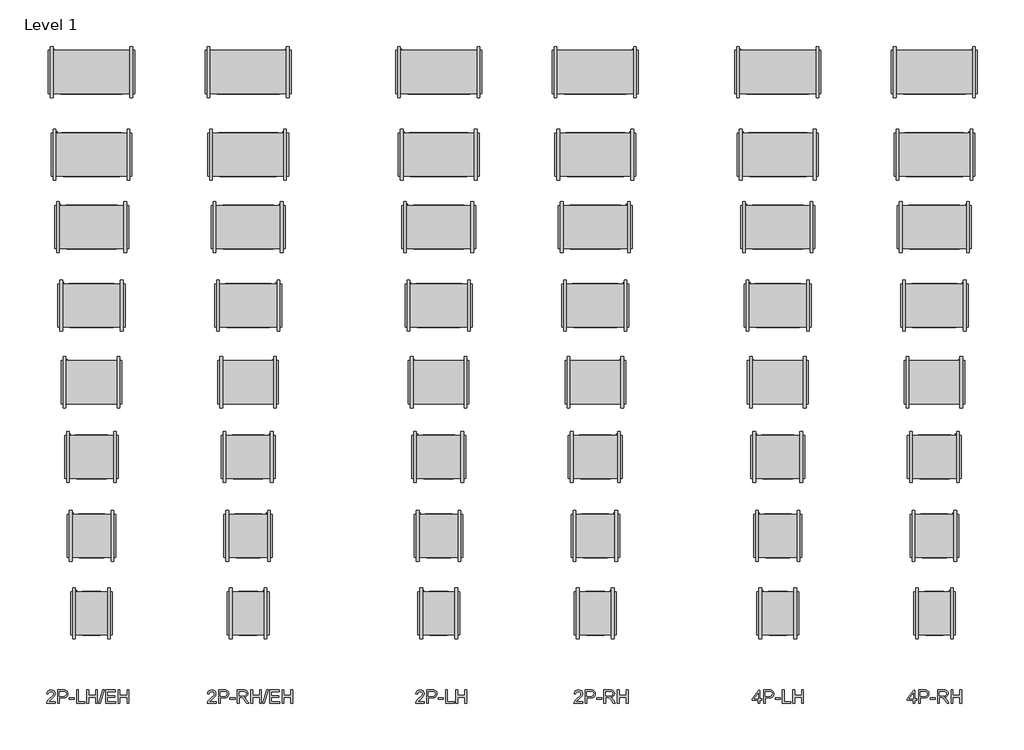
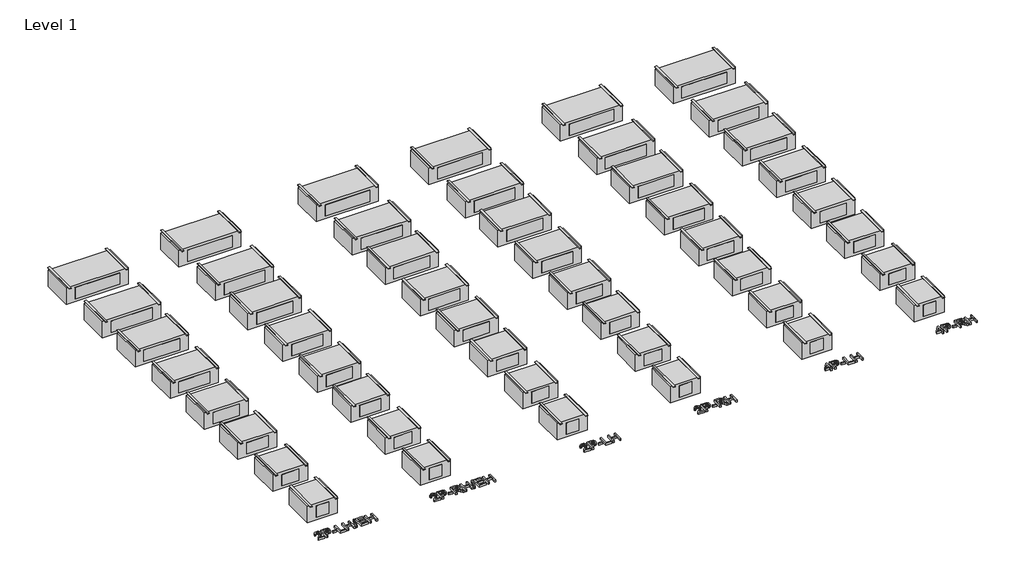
# One storey: 54 proxies.
"""IFC4 building model written with IfcOpenShell, lengths in millimetres."""

from ifc_helpers import new_model, si_unit, origin, origin_with_axes, place, context, project, spatial, polyline, outline, extrude, transform, mapped, element, save
from components import mechanical_equipment_26f8894d, mechanical_equipment_87600767, mechanical_equipment_b159b2cd, mechanical_equipment_a8f203a1, mechanical_equipment_70e01742, mechanical_equipment_dbfdf2e5, mechanical_equipment_0f606a30, mechanical_equipment_f485df29, mechanical_equipment_0a2ce578, mechanical_equipment_faba4bf7, mechanical_equipment_e893a141, mechanical_equipment_a9ee03a7, mechanical_equipment_9f4dc20a, mechanical_equipment_ffdbdcb3, mechanical_equipment_647ce925, mechanical_equipment_97658934, mechanical_equipment_33559a50, mechanical_equipment_e15ea110, mechanical_equipment_82f79ed9, mechanical_equipment_b189dda4, mechanical_equipment_b7b84645, mechanical_equipment_fb833bd3, mechanical_equipment_b19d2d59, mechanical_equipment_2fbf0505, mechanical_equipment_cd44f85f, mechanical_equipment_42f91bbd, mechanical_equipment_d08900a7, mechanical_equipment_3ababbc8, mechanical_equipment_00bbcb23, mechanical_equipment_579c9824, mechanical_equipment_f75bf29c, mechanical_equipment_cf69444b

model = new_model("IFC4")

# Units and contexts
model_context = context("Model", 3, world=origin())
ifc_project = project(units=[si_unit("LENGTHUNIT", "METRE", prefix="MILLI")], contexts=[model_context])

# Site, building, storey
site = spatial("IfcSite", under=ifc_project)
building = spatial("IfcBuilding", under=site)
storey = spatial("IfcBuildingStorey", under=building, Name="Level 1", Elevation=0.0)

# Proxies
placement = place(None, origin())
mechanical_equipment_shape = mechanical_equipment_26f8894d(model_context)
element("IfcBuildingElementProxy", 1, Name="Exposed_High_Capacity_Horizontal_Cabinet_Fan_Coil_Unit_-_42DFA_-_CARRIER_-_2-Pipe_Cool-EHeat_RH_2022 : Size 06 - 277v/60Hz/1Ph - 6 Row 4.0kW", ObjectType="Exposed_High_Capacity_Horizontal_Cabinet_Fan_Coil_Unit_-_42DFA_-_CARRIER_-_2-Pipe_Cool-EHeat_RH_2022 : Size 06 - 277v/60Hz/1Ph - 6 Row 4.0kW", at=placement, inside=storey, context=model_context, shape_type="MappedRepresentation", body=[
    mapped(mechanical_equipment_shape, transform((-31973.3058544, -7562.5509778, 0.0), x_axis=(1.0, 0.0, 0.0), y_axis=(0.0, 1.0, 0.0), z_axis=(0.0, 0.0, 1.0))),
])
mechanical_equipment_2_shape = mechanical_equipment_87600767(model_context)
element("IfcBuildingElementProxy", 2, Name="Exposed_High_Capacity_Horizontal_Cabinet_Fan_Coil_Unit_-_42DFA_-_CARRIER_-_2-Pipe_Cool-EHeat_RH_2022 : Size 08 - 277v/60Hz/1Ph - 6 Row 6.0kW", ObjectType="Exposed_High_Capacity_Horizontal_Cabinet_Fan_Coil_Unit_-_42DFA_-_CARRIER_-_2-Pipe_Cool-EHeat_RH_2022 : Size 08 - 277v/60Hz/1Ph - 6 Row 6.0kW", at=placement, inside=storey, context=model_context, shape_type="MappedRepresentation", body=[
    mapped(mechanical_equipment_2_shape, transform((-31973.3058544, -6097.8142671, 0.0), x_axis=(1.0, 0.0, 0.0), y_axis=(0.0, 1.0, 0.0), z_axis=(0.0, 0.0, 1.0))),
])
mechanical_equipment_3_shape = mechanical_equipment_b159b2cd(model_context)
element("IfcBuildingElementProxy", 3, Name="Exposed_High_Capacity_Horizontal_Cabinet_Fan_Coil_Unit_-_42DFA_-_CARRIER_-_2-Pipe_Cool-EHeat_RH_2022 : Size 10 - 277v/60Hz/1Ph - 6 Row 7.0kW", ObjectType="Exposed_High_Capacity_Horizontal_Cabinet_Fan_Coil_Unit_-_42DFA_-_CARRIER_-_2-Pipe_Cool-EHeat_RH_2022 : Size 10 - 277v/60Hz/1Ph - 6 Row 7.0kW", at=placement, inside=storey, context=model_context, shape_type="MappedRepresentation", body=[
    mapped(mechanical_equipment_3_shape, transform((-31973.3058544, -4605.9528026, 0.0), x_axis=(1.0, 0.0, 0.0), y_axis=(0.0, 1.0, 0.0), z_axis=(0.0, 0.0, 1.0))),
])
mechanical_equipment_4_shape = mechanical_equipment_a8f203a1(model_context)
element("IfcBuildingElementProxy", 4, Name="Exposed_High_Capacity_Horizontal_Cabinet_Fan_Coil_Unit_-_42DFA_-_CARRIER_-_2-Pipe_Cool-EHeat_RH_2022 : Size 12 - 277v/60Hz/1Ph - 6 Row 9.0kW", ObjectType="Exposed_High_Capacity_Horizontal_Cabinet_Fan_Coil_Unit_-_42DFA_-_CARRIER_-_2-Pipe_Cool-EHeat_RH_2022 : Size 12 - 277v/60Hz/1Ph - 6 Row 9.0kW", at=placement, inside=storey, context=model_context, shape_type="MappedRepresentation", body=[
    mapped(mechanical_equipment_4_shape, transform((-31973.3058544, -3195.4655997, 0.0), x_axis=(1.0, 0.0, 0.0), y_axis=(0.0, 1.0, 0.0), z_axis=(0.0, 0.0, 1.0))),
])
mechanical_equipment_5_shape = mechanical_equipment_70e01742(model_context)
element("IfcBuildingElementProxy", 5, Name="Exposed_High_Capacity_Horizontal_Cabinet_Fan_Coil_Unit_-_42DFA_-_CARRIER_-_2-Pipe_Cool-EHeat_RH_2022 : Size 14 - 277v/60Hz/1Ph - 6 Row 10.0kW", ObjectType="Exposed_High_Capacity_Horizontal_Cabinet_Fan_Coil_Unit_-_42DFA_-_CARRIER_-_2-Pipe_Cool-EHeat_RH_2022 : Size 14 - 277v/60Hz/1Ph - 6 Row 10.0kW", at=placement, inside=storey, context=model_context, shape_type="MappedRepresentation", body=[
    mapped(mechanical_equipment_5_shape, transform((-31973.3058544, -1744.291266, 0.0), x_axis=(1.0, 0.0, 0.0), y_axis=(0.0, 1.0, 0.0), z_axis=(0.0, 0.0, 1.0))),
])
mechanical_equipment_6_shape = mechanical_equipment_dbfdf2e5(model_context)
element("IfcBuildingElementProxy", 6, Name="Exposed_High_Capacity_Horizontal_Cabinet_Fan_Coil_Unit_-_42DFA_-_CARRIER_-_2-Pipe_Cool-EHeat_RH_2022 : Size 16 - 277v/60Hz/1Ph - 6 Row 12.0kW", ObjectType="Exposed_High_Capacity_Horizontal_Cabinet_Fan_Coil_Unit_-_42DFA_-_CARRIER_-_2-Pipe_Cool-EHeat_RH_2022 : Size 16 - 277v/60Hz/1Ph - 6 Row 12.0kW", at=placement, inside=storey, context=model_context, shape_type="MappedRepresentation", body=[
    mapped(mechanical_equipment_6_shape, transform((-31973.3058544, -265.9921784, 0.0), x_axis=(1.0, 0.0, 0.0), y_axis=(0.0, 1.0, 0.0), z_axis=(0.0, 0.0, 1.0))),
])
mechanical_equipment_7_shape = mechanical_equipment_0f606a30(model_context)
element("IfcBuildingElementProxy", 7, Name="Exposed_High_Capacity_Horizontal_Cabinet_Fan_Coil_Unit_-_42DFA_-_CARRIER_-_2-Pipe_Cool-EHeat_RH_2022 : Size 18 - 277v/60Hz/1Ph - 6 Row 12.0kW", ObjectType="Exposed_High_Capacity_Horizontal_Cabinet_Fan_Coil_Unit_-_42DFA_-_CARRIER_-_2-Pipe_Cool-EHeat_RH_2022 : Size 18 - 277v/60Hz/1Ph - 6 Row 12.0kW", at=placement, inside=storey, context=model_context, shape_type="MappedRepresentation", body=[
    mapped(mechanical_equipment_7_shape, transform((-31973.3058544, 1103.8078936, 0.0), x_axis=(1.0, 0.0, 0.0), y_axis=(0.0, 1.0, 0.0), z_axis=(0.0, 0.0, 1.0))),
])
mechanical_equipment_8_shape = mechanical_equipment_f485df29(model_context)
element("IfcBuildingElementProxy", 8, Name="Exposed_High_Capacity_Horizontal_Cabinet_Fan_Coil_Unit_-_42DFA_-_CARRIER_-_2-Pipe_Cool-EHeat_RH_2022 : Size 20 - 277v/60Hz/1Ph - 6 Row 14.0kW", ObjectType="Exposed_High_Capacity_Horizontal_Cabinet_Fan_Coil_Unit_-_42DFA_-_CARRIER_-_2-Pipe_Cool-EHeat_RH_2022 : Size 20 - 277v/60Hz/1Ph - 6 Row 14.0kW", at=placement, inside=storey, context=model_context, shape_type="MappedRepresentation", body=[
    mapped(mechanical_equipment_8_shape, transform((-31973.3058544, 2663.4812429, 0.0), x_axis=(1.0, 0.0, 0.0), y_axis=(0.0, 1.0, 0.0), z_axis=(0.0, 0.0, 1.0))),
])
mechanical_equipment_9_shape = mechanical_equipment_0a2ce578(model_context)
element("IfcBuildingElementProxy", 9, Name="Exposed_High_Capacity_Horizontal_Cabinet_Fan_Coil_Unit_-_42DFA_-_CARRIER_-_4-Pipe_RH_2022 : Size 06 - 277v/60Hz/1Ph - 6/2 Coil", ObjectType="Exposed_High_Capacity_Horizontal_Cabinet_Fan_Coil_Unit_-_42DFA_-_CARRIER_-_4-Pipe_RH_2022 : Size 06 - 277v/60Hz/1Ph - 6/2 Coil", at=placement, inside=storey, context=model_context, shape_type="MappedRepresentation", body=[
    mapped(mechanical_equipment_9_shape, transform((-19019.3058544, -7562.5509778, 0.0), x_axis=(1.0, 0.0, 0.0), y_axis=(0.0, 1.0, 0.0), z_axis=(0.0, 0.0, 1.0))),
])
mechanical_equipment_10_shape = mechanical_equipment_faba4bf7(model_context)
element("IfcBuildingElementProxy", 10, Name="Exposed_High_Capacity_Horizontal_Cabinet_Fan_Coil_Unit_-_42DFA_-_CARRIER_-_4-Pipe_RH_2022 : Size 08 - 277v/60Hz/1Ph - 6/2 Coil", ObjectType="Exposed_High_Capacity_Horizontal_Cabinet_Fan_Coil_Unit_-_42DFA_-_CARRIER_-_4-Pipe_RH_2022 : Size 08 - 277v/60Hz/1Ph - 6/2 Coil", at=placement, inside=storey, context=model_context, shape_type="MappedRepresentation", body=[
    mapped(mechanical_equipment_10_shape, transform((-19019.3058544, -6097.8142671, 0.0), x_axis=(1.0, 0.0, 0.0), y_axis=(0.0, 1.0, 0.0), z_axis=(0.0, 0.0, 1.0))),
])
mechanical_equipment_11_shape = mechanical_equipment_e893a141(model_context)
element("IfcBuildingElementProxy", 11, Name="Exposed_High_Capacity_Horizontal_Cabinet_Fan_Coil_Unit_-_42DFA_-_CARRIER_-_4-Pipe_RH_2022 : Size 10 - 277v/60Hz/1Ph - 6/2 Coil", ObjectType="Exposed_High_Capacity_Horizontal_Cabinet_Fan_Coil_Unit_-_42DFA_-_CARRIER_-_4-Pipe_RH_2022 : Size 10 - 277v/60Hz/1Ph - 6/2 Coil", at=placement, inside=storey, context=model_context, shape_type="MappedRepresentation", body=[
    mapped(mechanical_equipment_11_shape, transform((-19019.3058544, -4605.9528026, 0.0), x_axis=(1.0, 0.0, 0.0), y_axis=(0.0, 1.0, 0.0), z_axis=(0.0, 0.0, 1.0))),
])
mechanical_equipment_12_shape = mechanical_equipment_a9ee03a7(model_context)
element("IfcBuildingElementProxy", 12, Name="Exposed_High_Capacity_Horizontal_Cabinet_Fan_Coil_Unit_-_42DFA_-_CARRIER_-_4-Pipe_RH_2022 : Size 12 - 277v/60Hz/1Ph - 6/2 Coil", ObjectType="Exposed_High_Capacity_Horizontal_Cabinet_Fan_Coil_Unit_-_42DFA_-_CARRIER_-_4-Pipe_RH_2022 : Size 12 - 277v/60Hz/1Ph - 6/2 Coil", at=placement, inside=storey, context=model_context, shape_type="MappedRepresentation", body=[
    mapped(mechanical_equipment_12_shape, transform((-19019.3058544, -3195.4655997, 0.0), x_axis=(1.0, 0.0, 0.0), y_axis=(0.0, 1.0, 0.0), z_axis=(0.0, 0.0, 1.0))),
])
mechanical_equipment_13_shape = mechanical_equipment_9f4dc20a(model_context)
element("IfcBuildingElementProxy", 13, Name="Exposed_High_Capacity_Horizontal_Cabinet_Fan_Coil_Unit_-_42DFA_-_CARRIER_-_4-Pipe_RH_2022 : Size 14 - 277v/60Hz/1Ph - 6/2 Coil", ObjectType="Exposed_High_Capacity_Horizontal_Cabinet_Fan_Coil_Unit_-_42DFA_-_CARRIER_-_4-Pipe_RH_2022 : Size 14 - 277v/60Hz/1Ph - 6/2 Coil", at=placement, inside=storey, context=model_context, shape_type="MappedRepresentation", body=[
    mapped(mechanical_equipment_13_shape, transform((-19019.3058544, -1744.291266, 0.0), x_axis=(1.0, 0.0, 0.0), y_axis=(0.0, 1.0, 0.0), z_axis=(0.0, 0.0, 1.0))),
])
mechanical_equipment_14_shape = mechanical_equipment_ffdbdcb3(model_context)
element("IfcBuildingElementProxy", 14, Name="Exposed_High_Capacity_Horizontal_Cabinet_Fan_Coil_Unit_-_42DFA_-_CARRIER_-_4-Pipe_RH_2022 : Size 16 - 277v/60Hz/1Ph - 6/2 Coil", ObjectType="Exposed_High_Capacity_Horizontal_Cabinet_Fan_Coil_Unit_-_42DFA_-_CARRIER_-_4-Pipe_RH_2022 : Size 16 - 277v/60Hz/1Ph - 6/2 Coil", at=placement, inside=storey, context=model_context, shape_type="MappedRepresentation", body=[
    mapped(mechanical_equipment_14_shape, transform((-19019.3058544, -265.9921784, 0.0), x_axis=(1.0, 0.0, 0.0), y_axis=(0.0, 1.0, 0.0), z_axis=(0.0, 0.0, 1.0))),
])
mechanical_equipment_15_shape = mechanical_equipment_647ce925(model_context)
element("IfcBuildingElementProxy", 15, Name="Exposed_High_Capacity_Horizontal_Cabinet_Fan_Coil_Unit_-_42DFA_-_CARRIER_-_4-Pipe_RH_2022 : Size 18 - 277v/60Hz/1Ph - 6/2 Coil", ObjectType="Exposed_High_Capacity_Horizontal_Cabinet_Fan_Coil_Unit_-_42DFA_-_CARRIER_-_4-Pipe_RH_2022 : Size 18 - 277v/60Hz/1Ph - 6/2 Coil", at=placement, inside=storey, context=model_context, shape_type="MappedRepresentation", body=[
    mapped(mechanical_equipment_15_shape, transform((-19019.3058544, 1103.8078936, 0.0), x_axis=(1.0, 0.0, 0.0), y_axis=(0.0, 1.0, 0.0), z_axis=(0.0, 0.0, 1.0))),
])
mechanical_equipment_16_shape = mechanical_equipment_97658934(model_context)
element("IfcBuildingElementProxy", 16, Name="Exposed_High_Capacity_Horizontal_Cabinet_Fan_Coil_Unit_-_42DFA_-_CARRIER_-_4-Pipe_RH_2022 : Size 20 - 277v/60Hz/1Ph - 6/2 Coil", ObjectType="Exposed_High_Capacity_Horizontal_Cabinet_Fan_Coil_Unit_-_42DFA_-_CARRIER_-_4-Pipe_RH_2022 : Size 20 - 277v/60Hz/1Ph - 6/2 Coil", at=placement, inside=storey, context=model_context, shape_type="MappedRepresentation", body=[
    mapped(mechanical_equipment_16_shape, transform((-19019.3058544, 2663.4812429, 0.0), x_axis=(1.0, 0.0, 0.0), y_axis=(0.0, 1.0, 0.0), z_axis=(0.0, 0.0, 1.0))),
])
mechanical_equipment_17_shape = mechanical_equipment_33559a50(model_context)
element("IfcBuildingElementProxy", 17, Name="Exposed_High_Capacity_Horizontal_Cabinet_Fan_Coil_Unit_-_42DFA_-_CARRIER_-_4-Pipe_LH_2022 : Size 06 - 277v/60Hz/1Ph - 6/2 Coil", ObjectType="Exposed_High_Capacity_Horizontal_Cabinet_Fan_Coil_Unit_-_42DFA_-_CARRIER_-_4-Pipe_LH_2022 : Size 06 - 277v/60Hz/1Ph - 6/2 Coil", at=placement, inside=storey, context=model_context, shape_type="MappedRepresentation", body=[
    mapped(mechanical_equipment_17_shape, transform((-21975.9040296, -7562.5509778, 0.0), x_axis=(1.0, 0.0, 0.0), y_axis=(0.0, 1.0, 0.0), z_axis=(0.0, 0.0, 1.0))),
])
mechanical_equipment_18_shape = mechanical_equipment_e15ea110(model_context)
element("IfcBuildingElementProxy", 18, Name="Exposed_High_Capacity_Horizontal_Cabinet_Fan_Coil_Unit_-_42DFA_-_CARRIER_-_4-Pipe_LH_2022 : Size 08 - 277v/60Hz/1Ph - 6/2 Coil", ObjectType="Exposed_High_Capacity_Horizontal_Cabinet_Fan_Coil_Unit_-_42DFA_-_CARRIER_-_4-Pipe_LH_2022 : Size 08 - 277v/60Hz/1Ph - 6/2 Coil", at=placement, inside=storey, context=model_context, shape_type="MappedRepresentation", body=[
    mapped(mechanical_equipment_18_shape, transform((-21975.9040296, -6097.8142671, 0.0), x_axis=(1.0, 0.0, 0.0), y_axis=(0.0, 1.0, 0.0), z_axis=(0.0, 0.0, 1.0))),
])
mechanical_equipment_19_shape = mechanical_equipment_82f79ed9(model_context)
element("IfcBuildingElementProxy", 19, Name="Exposed_High_Capacity_Horizontal_Cabinet_Fan_Coil_Unit_-_42DFA_-_CARRIER_-_4-Pipe_LH_2022 : Size 10 - 277v/60Hz/1Ph - 6/2 Coil", ObjectType="Exposed_High_Capacity_Horizontal_Cabinet_Fan_Coil_Unit_-_42DFA_-_CARRIER_-_4-Pipe_LH_2022 : Size 10 - 277v/60Hz/1Ph - 6/2 Coil", at=placement, inside=storey, context=model_context, shape_type="MappedRepresentation", body=[
    mapped(mechanical_equipment_19_shape, transform((-21975.9040296, -4605.9528026, 0.0), x_axis=(1.0, 0.0, 0.0), y_axis=(0.0, 1.0, 0.0), z_axis=(0.0, 0.0, 1.0))),
])
mechanical_equipment_20_shape = mechanical_equipment_b189dda4(model_context)
element("IfcBuildingElementProxy", 20, Name="Exposed_High_Capacity_Horizontal_Cabinet_Fan_Coil_Unit_-_42DFA_-_CARRIER_-_4-Pipe_LH_2022 : Size 12 - 277v/60Hz/1Ph - 6/2 Coil", ObjectType="Exposed_High_Capacity_Horizontal_Cabinet_Fan_Coil_Unit_-_42DFA_-_CARRIER_-_4-Pipe_LH_2022 : Size 12 - 277v/60Hz/1Ph - 6/2 Coil", at=placement, inside=storey, context=model_context, shape_type="MappedRepresentation", body=[
    mapped(mechanical_equipment_20_shape, transform((-21975.9040296, -3195.4655997, 0.0), x_axis=(1.0, 0.0, 0.0), y_axis=(0.0, 1.0, 0.0), z_axis=(0.0, 0.0, 1.0))),
])
mechanical_equipment_21_shape = mechanical_equipment_b7b84645(model_context)
element("IfcBuildingElementProxy", 21, Name="Exposed_High_Capacity_Horizontal_Cabinet_Fan_Coil_Unit_-_42DFA_-_CARRIER_-_4-Pipe_LH_2022 : Size 14 - 277v/60Hz/1Ph - 6/2 Coil", ObjectType="Exposed_High_Capacity_Horizontal_Cabinet_Fan_Coil_Unit_-_42DFA_-_CARRIER_-_4-Pipe_LH_2022 : Size 14 - 277v/60Hz/1Ph - 6/2 Coil", at=placement, inside=storey, context=model_context, shape_type="MappedRepresentation", body=[
    mapped(mechanical_equipment_21_shape, transform((-21975.9040296, -1744.291266, 0.0), x_axis=(1.0, 0.0, 0.0), y_axis=(0.0, 1.0, 0.0), z_axis=(0.0, 0.0, 1.0))),
])
mechanical_equipment_22_shape = mechanical_equipment_fb833bd3(model_context)
element("IfcBuildingElementProxy", 22, Name="Exposed_High_Capacity_Horizontal_Cabinet_Fan_Coil_Unit_-_42DFA_-_CARRIER_-_4-Pipe_LH_2022 : Size 16 - 277v/60Hz/1Ph - 6/2 Coil", ObjectType="Exposed_High_Capacity_Horizontal_Cabinet_Fan_Coil_Unit_-_42DFA_-_CARRIER_-_4-Pipe_LH_2022 : Size 16 - 277v/60Hz/1Ph - 6/2 Coil", at=placement, inside=storey, context=model_context, shape_type="MappedRepresentation", body=[
    mapped(mechanical_equipment_22_shape, transform((-21975.9040296, -265.9921784, 0.0), x_axis=(1.0, 0.0, 0.0), y_axis=(0.0, 1.0, 0.0), z_axis=(0.0, 0.0, 1.0))),
])
mechanical_equipment_23_shape = mechanical_equipment_b19d2d59(model_context)
element("IfcBuildingElementProxy", 23, Name="Exposed_High_Capacity_Horizontal_Cabinet_Fan_Coil_Unit_-_42DFA_-_CARRIER_-_4-Pipe_LH_2022 : Size 18 - 277v/60Hz/1Ph - 6/2 Coil", ObjectType="Exposed_High_Capacity_Horizontal_Cabinet_Fan_Coil_Unit_-_42DFA_-_CARRIER_-_4-Pipe_LH_2022 : Size 18 - 277v/60Hz/1Ph - 6/2 Coil", at=placement, inside=storey, context=model_context, shape_type="MappedRepresentation", body=[
    mapped(mechanical_equipment_23_shape, transform((-21975.9040296, 1103.8078936, 0.0), x_axis=(1.0, 0.0, 0.0), y_axis=(0.0, 1.0, 0.0), z_axis=(0.0, 0.0, 1.0))),
])
mechanical_equipment_24_shape = mechanical_equipment_2fbf0505(model_context)
element("IfcBuildingElementProxy", 24, Name="Exposed_High_Capacity_Horizontal_Cabinet_Fan_Coil_Unit_-_42DFA_-_CARRIER_-_4-Pipe_LH_2022 : Size 20 - 277v/60Hz/1Ph - 6/2 Coil", ObjectType="Exposed_High_Capacity_Horizontal_Cabinet_Fan_Coil_Unit_-_42DFA_-_CARRIER_-_4-Pipe_LH_2022 : Size 20 - 277v/60Hz/1Ph - 6/2 Coil", at=placement, inside=storey, context=model_context, shape_type="MappedRepresentation", body=[
    mapped(mechanical_equipment_24_shape, transform((-21975.9040296, 2663.4812429, 0.0), x_axis=(1.0, 0.0, 0.0), y_axis=(0.0, 1.0, 0.0), z_axis=(0.0, 0.0, 1.0))),
])
mechanical_equipment_25_shape = mechanical_equipment_cd44f85f(model_context)
element("IfcBuildingElementProxy", 25, Name="Exposed_High_Capacity_Horizontal_Cabinet_Fan_Coil_Unit_-_42DFA_-_CARRIER_-_2-Pipe_Cool-EHeat_LH_2022 : Size 06 - 277v/60Hz/1Ph - 6 Row 4.0kW", ObjectType="Exposed_High_Capacity_Horizontal_Cabinet_Fan_Coil_Unit_-_42DFA_-_CARRIER_-_2-Pipe_Cool-EHeat_LH_2022 : Size 06 - 277v/60Hz/1Ph - 6 Row 4.0kW", at=placement, inside=storey, context=model_context, shape_type="MappedRepresentation", body=[
    mapped(mechanical_equipment_25_shape, transform((-34929.9040296, -7562.5509778, 0.0), x_axis=(1.0, 0.0, 0.0), y_axis=(0.0, 1.0, 0.0), z_axis=(0.0, 0.0, 1.0))),
])
mechanical_equipment_26_shape = mechanical_equipment_42f91bbd(model_context)
element("IfcBuildingElementProxy", 26, Name="Exposed_High_Capacity_Horizontal_Cabinet_Fan_Coil_Unit_-_42DFA_-_CARRIER_-_2-Pipe_Cool-EHeat_LH_2022 : Size 08 - 277v/60Hz/1Ph - 6 Row 6.0kW", ObjectType="Exposed_High_Capacity_Horizontal_Cabinet_Fan_Coil_Unit_-_42DFA_-_CARRIER_-_2-Pipe_Cool-EHeat_LH_2022 : Size 08 - 277v/60Hz/1Ph - 6 Row 6.0kW", at=placement, inside=storey, context=model_context, shape_type="MappedRepresentation", body=[
    mapped(mechanical_equipment_26_shape, transform((-34929.9040296, -6097.8142671, 0.0), x_axis=(1.0, 0.0, 0.0), y_axis=(0.0, 1.0, 0.0), z_axis=(0.0, 0.0, 1.0))),
])
mechanical_equipment_27_shape = mechanical_equipment_d08900a7(model_context)
element("IfcBuildingElementProxy", 27, Name="Exposed_High_Capacity_Horizontal_Cabinet_Fan_Coil_Unit_-_42DFA_-_CARRIER_-_2-Pipe_Cool-EHeat_LH_2022 : Size 10 - 277v/60Hz/1Ph - 6 Row 7.0kW", ObjectType="Exposed_High_Capacity_Horizontal_Cabinet_Fan_Coil_Unit_-_42DFA_-_CARRIER_-_2-Pipe_Cool-EHeat_LH_2022 : Size 10 - 277v/60Hz/1Ph - 6 Row 7.0kW", at=placement, inside=storey, context=model_context, shape_type="MappedRepresentation", body=[
    mapped(mechanical_equipment_27_shape, transform((-34929.9040296, -4605.9528026, 0.0), x_axis=(1.0, 0.0, 0.0), y_axis=(0.0, 1.0, 0.0), z_axis=(0.0, 0.0, 1.0))),
])
mechanical_equipment_28_shape = mechanical_equipment_3ababbc8(model_context)
element("IfcBuildingElementProxy", 28, Name="Exposed_High_Capacity_Horizontal_Cabinet_Fan_Coil_Unit_-_42DFA_-_CARRIER_-_2-Pipe_Cool-EHeat_LH_2022 : Size 12 - 277v/60Hz/1Ph - 6 Row 9.0kW", ObjectType="Exposed_High_Capacity_Horizontal_Cabinet_Fan_Coil_Unit_-_42DFA_-_CARRIER_-_2-Pipe_Cool-EHeat_LH_2022 : Size 12 - 277v/60Hz/1Ph - 6 Row 9.0kW", at=placement, inside=storey, context=model_context, shape_type="MappedRepresentation", body=[
    mapped(mechanical_equipment_28_shape, transform((-34929.9040296, -3195.4655997, 0.0), x_axis=(1.0, 0.0, 0.0), y_axis=(0.0, 1.0, 0.0), z_axis=(0.0, 0.0, 1.0))),
])
mechanical_equipment_29_shape = mechanical_equipment_00bbcb23(model_context)
element("IfcBuildingElementProxy", 29, Name="Exposed_High_Capacity_Horizontal_Cabinet_Fan_Coil_Unit_-_42DFA_-_CARRIER_-_2-Pipe_Cool-EHeat_LH_2022 : Size 14 - 277v/60Hz/1Ph - 6 Row 10.0kW", ObjectType="Exposed_High_Capacity_Horizontal_Cabinet_Fan_Coil_Unit_-_42DFA_-_CARRIER_-_2-Pipe_Cool-EHeat_LH_2022 : Size 14 - 277v/60Hz/1Ph - 6 Row 10.0kW", at=placement, inside=storey, context=model_context, shape_type="MappedRepresentation", body=[
    mapped(mechanical_equipment_29_shape, transform((-34929.9040296, -1744.291266, 0.0), x_axis=(1.0, 0.0, 0.0), y_axis=(0.0, 1.0, 0.0), z_axis=(0.0, 0.0, 1.0))),
])
mechanical_equipment_30_shape = mechanical_equipment_579c9824(model_context)
element("IfcBuildingElementProxy", 30, Name="Exposed_High_Capacity_Horizontal_Cabinet_Fan_Coil_Unit_-_42DFA_-_CARRIER_-_2-Pipe_Cool-EHeat_LH_2022 : Size 16 - 277v/60Hz/1Ph - 6 Row 12.0kW", ObjectType="Exposed_High_Capacity_Horizontal_Cabinet_Fan_Coil_Unit_-_42DFA_-_CARRIER_-_2-Pipe_Cool-EHeat_LH_2022 : Size 16 - 277v/60Hz/1Ph - 6 Row 12.0kW", at=placement, inside=storey, context=model_context, shape_type="MappedRepresentation", body=[
    mapped(mechanical_equipment_30_shape, transform((-34929.9040296, -265.9921784, 0.0), x_axis=(1.0, 0.0, 0.0), y_axis=(0.0, 1.0, 0.0), z_axis=(0.0, 0.0, 1.0))),
])
mechanical_equipment_31_shape = mechanical_equipment_f75bf29c(model_context)
element("IfcBuildingElementProxy", 31, Name="Exposed_High_Capacity_Horizontal_Cabinet_Fan_Coil_Unit_-_42DFA_-_CARRIER_-_2-Pipe_Cool-EHeat_LH_2022 : Size 18 - 277v/60Hz/1Ph - 6 Row 12.0kW", ObjectType="Exposed_High_Capacity_Horizontal_Cabinet_Fan_Coil_Unit_-_42DFA_-_CARRIER_-_2-Pipe_Cool-EHeat_LH_2022 : Size 18 - 277v/60Hz/1Ph - 6 Row 12.0kW", at=placement, inside=storey, context=model_context, shape_type="MappedRepresentation", body=[
    mapped(mechanical_equipment_31_shape, transform((-34929.9040296, 1103.8078936, 0.0), x_axis=(1.0, 0.0, 0.0), y_axis=(0.0, 1.0, 0.0), z_axis=(0.0, 0.0, 1.0))),
])
mechanical_equipment_32_shape = mechanical_equipment_cf69444b(model_context)
element("IfcBuildingElementProxy", 32, Name="Exposed_High_Capacity_Horizontal_Cabinet_Fan_Coil_Unit_-_42DFA_-_CARRIER_-_2-Pipe_Cool-EHeat_LH_2022 : Size 20 - 277v/60Hz/1Ph - 6 Row 14.0kW", ObjectType="Exposed_High_Capacity_Horizontal_Cabinet_Fan_Coil_Unit_-_42DFA_-_CARRIER_-_2-Pipe_Cool-EHeat_LH_2022 : Size 20 - 277v/60Hz/1Ph - 6 Row 14.0kW", at=placement, inside=storey, context=model_context, shape_type="MappedRepresentation", body=[
    mapped(mechanical_equipment_32_shape, transform((-34929.9040296, 2663.4812429, 0.0), x_axis=(1.0, 0.0, 0.0), y_axis=(0.0, 1.0, 0.0), z_axis=(0.0, 0.0, 1.0))),
])
element("IfcBuildingElementProxy", 33, Name="Exposed_High_Capacity_Horizontal_Cabinet_Fan_Coil_Unit_-_42DFA_-_CARRIER_-_2-Pipe_LH_2022 : Size 06 - 277v/60Hz/1Ph - 6 Row 4.0kW", ObjectType="Exposed_High_Capacity_Horizontal_Cabinet_Fan_Coil_Unit_-_42DFA_-_CARRIER_-_2-Pipe_LH_2022 : Size 06 - 277v/60Hz/1Ph - 6 Row 4.0kW", at=placement, inside=storey, context=model_context, shape_type="MappedRepresentation", body=[
    mapped(mechanical_equipment_25_shape, transform((-28376.7040296, -7562.5509778, 0.0), x_axis=(1.0, 0.0, 0.0), y_axis=(0.0, 1.0, 0.0), z_axis=(0.0, 0.0, 1.0))),
])
element("IfcBuildingElementProxy", 34, Name="Exposed_High_Capacity_Horizontal_Cabinet_Fan_Coil_Unit_-_42DFA_-_CARRIER_-_2-Pipe_LH_2022 : Size 08 - 277v/60Hz/1Ph - 6 Row 6.0kW", ObjectType="Exposed_High_Capacity_Horizontal_Cabinet_Fan_Coil_Unit_-_42DFA_-_CARRIER_-_2-Pipe_LH_2022 : Size 08 - 277v/60Hz/1Ph - 6 Row 6.0kW", at=placement, inside=storey, context=model_context, shape_type="MappedRepresentation", body=[
    mapped(mechanical_equipment_26_shape, transform((-28376.7040296, -6097.8142671, 0.0), x_axis=(1.0, 0.0, 0.0), y_axis=(0.0, 1.0, 0.0), z_axis=(0.0, 0.0, 1.0))),
])
element("IfcBuildingElementProxy", 35, Name="Exposed_High_Capacity_Horizontal_Cabinet_Fan_Coil_Unit_-_42DFA_-_CARRIER_-_2-Pipe_LH_2022 : Size 10 - 277v/60Hz/1Ph - 6 Row 7.0kW", ObjectType="Exposed_High_Capacity_Horizontal_Cabinet_Fan_Coil_Unit_-_42DFA_-_CARRIER_-_2-Pipe_LH_2022 : Size 10 - 277v/60Hz/1Ph - 6 Row 7.0kW", at=placement, inside=storey, context=model_context, shape_type="MappedRepresentation", body=[
    mapped(mechanical_equipment_27_shape, transform((-28376.7040296, -4605.9528026, 0.0), x_axis=(1.0, 0.0, 0.0), y_axis=(0.0, 1.0, 0.0), z_axis=(0.0, 0.0, 1.0))),
])
element("IfcBuildingElementProxy", 36, Name="Exposed_High_Capacity_Horizontal_Cabinet_Fan_Coil_Unit_-_42DFA_-_CARRIER_-_2-Pipe_LH_2022 : Size 12 - 277v/60Hz/1Ph - 6 Row 9.0kW", ObjectType="Exposed_High_Capacity_Horizontal_Cabinet_Fan_Coil_Unit_-_42DFA_-_CARRIER_-_2-Pipe_LH_2022 : Size 12 - 277v/60Hz/1Ph - 6 Row 9.0kW", at=placement, inside=storey, context=model_context, shape_type="MappedRepresentation", body=[
    mapped(mechanical_equipment_28_shape, transform((-28376.7040296, -3195.4655997, 0.0), x_axis=(1.0, 0.0, 0.0), y_axis=(0.0, 1.0, 0.0), z_axis=(0.0, 0.0, 1.0))),
])
element("IfcBuildingElementProxy", 37, Name="Exposed_High_Capacity_Horizontal_Cabinet_Fan_Coil_Unit_-_42DFA_-_CARRIER_-_2-Pipe_LH_2022 : Size 14 - 277v/60Hz/1Ph - 6 Row 10.0kW", ObjectType="Exposed_High_Capacity_Horizontal_Cabinet_Fan_Coil_Unit_-_42DFA_-_CARRIER_-_2-Pipe_LH_2022 : Size 14 - 277v/60Hz/1Ph - 6 Row 10.0kW", at=placement, inside=storey, context=model_context, shape_type="MappedRepresentation", body=[
    mapped(mechanical_equipment_29_shape, transform((-28376.7040296, -1744.291266, 0.0), x_axis=(1.0, 0.0, 0.0), y_axis=(0.0, 1.0, 0.0), z_axis=(0.0, 0.0, 1.0))),
])
element("IfcBuildingElementProxy", 38, Name="Exposed_High_Capacity_Horizontal_Cabinet_Fan_Coil_Unit_-_42DFA_-_CARRIER_-_2-Pipe_LH_2022 : Size 16 - 277v/60Hz/1Ph - 6 Row 12.0kW", ObjectType="Exposed_High_Capacity_Horizontal_Cabinet_Fan_Coil_Unit_-_42DFA_-_CARRIER_-_2-Pipe_LH_2022 : Size 16 - 277v/60Hz/1Ph - 6 Row 12.0kW", at=placement, inside=storey, context=model_context, shape_type="MappedRepresentation", body=[
    mapped(mechanical_equipment_30_shape, transform((-28376.7040296, -265.9921784, 0.0), x_axis=(1.0, 0.0, 0.0), y_axis=(0.0, 1.0, 0.0), z_axis=(0.0, 0.0, 1.0))),
])
element("IfcBuildingElementProxy", 39, Name="Exposed_High_Capacity_Horizontal_Cabinet_Fan_Coil_Unit_-_42DFA_-_CARRIER_-_2-Pipe_LH_2022 : Size 18 - 277v/60Hz/1Ph - 6 Row 12.0kW", ObjectType="Exposed_High_Capacity_Horizontal_Cabinet_Fan_Coil_Unit_-_42DFA_-_CARRIER_-_2-Pipe_LH_2022 : Size 18 - 277v/60Hz/1Ph - 6 Row 12.0kW", at=placement, inside=storey, context=model_context, shape_type="MappedRepresentation", body=[
    mapped(mechanical_equipment_31_shape, transform((-28376.7040296, 1103.8078936, 0.0), x_axis=(1.0, 0.0, 0.0), y_axis=(0.0, 1.0, 0.0), z_axis=(0.0, 0.0, 1.0))),
])
element("IfcBuildingElementProxy", 40, Name="Exposed_High_Capacity_Horizontal_Cabinet_Fan_Coil_Unit_-_42DFA_-_CARRIER_-_2-Pipe_LH_2022 : Size 20 - 277v/60Hz/1Ph - 6 Row 14.0kW", ObjectType="Exposed_High_Capacity_Horizontal_Cabinet_Fan_Coil_Unit_-_42DFA_-_CARRIER_-_2-Pipe_LH_2022 : Size 20 - 277v/60Hz/1Ph - 6 Row 14.0kW", at=placement, inside=storey, context=model_context, shape_type="MappedRepresentation", body=[
    mapped(mechanical_equipment_32_shape, transform((-28376.7040296, 2663.4812429, 0.0), x_axis=(1.0, 0.0, 0.0), y_axis=(0.0, 1.0, 0.0), z_axis=(0.0, 0.0, 1.0))),
])
element("IfcBuildingElementProxy", 41, Name="Exposed_High_Capacity_Horizontal_Cabinet_Fan_Coil_Unit_-_42DFA_-_CARRIER_-_2-Pipe_RH_2022 : Size 06 - 277v/60Hz/1Ph - 6 Row 4.0kW", ObjectType="Exposed_High_Capacity_Horizontal_Cabinet_Fan_Coil_Unit_-_42DFA_-_CARRIER_-_2-Pipe_RH_2022 : Size 06 - 277v/60Hz/1Ph - 6 Row 4.0kW", at=placement, inside=storey, context=model_context, shape_type="MappedRepresentation", body=[
    mapped(mechanical_equipment_shape, transform((-25420.1058544, -7562.5509778, 0.0), x_axis=(1.0, 0.0, 0.0), y_axis=(0.0, 1.0, 0.0), z_axis=(0.0, 0.0, 1.0))),
])
element("IfcBuildingElementProxy", 42, Name="Exposed_High_Capacity_Horizontal_Cabinet_Fan_Coil_Unit_-_42DFA_-_CARRIER_-_2-Pipe_RH_2022 : Size 08 - 277v/60Hz/1Ph - 6 Row 6.0kW", ObjectType="Exposed_High_Capacity_Horizontal_Cabinet_Fan_Coil_Unit_-_42DFA_-_CARRIER_-_2-Pipe_RH_2022 : Size 08 - 277v/60Hz/1Ph - 6 Row 6.0kW", at=placement, inside=storey, context=model_context, shape_type="MappedRepresentation", body=[
    mapped(mechanical_equipment_2_shape, transform((-25420.1058544, -6097.8142671, 0.0), x_axis=(1.0, 0.0, 0.0), y_axis=(0.0, 1.0, 0.0), z_axis=(0.0, 0.0, 1.0))),
])
element("IfcBuildingElementProxy", 43, Name="Exposed_High_Capacity_Horizontal_Cabinet_Fan_Coil_Unit_-_42DFA_-_CARRIER_-_2-Pipe_RH_2022 : Size 10 - 277v/60Hz/1Ph - 6 Row 7.0kW", ObjectType="Exposed_High_Capacity_Horizontal_Cabinet_Fan_Coil_Unit_-_42DFA_-_CARRIER_-_2-Pipe_RH_2022 : Size 10 - 277v/60Hz/1Ph - 6 Row 7.0kW", at=placement, inside=storey, context=model_context, shape_type="MappedRepresentation", body=[
    mapped(mechanical_equipment_3_shape, transform((-25420.1058544, -4605.9528026, 0.0), x_axis=(1.0, 0.0, 0.0), y_axis=(0.0, 1.0, 0.0), z_axis=(0.0, 0.0, 1.0))),
])
element("IfcBuildingElementProxy", 44, Name="Exposed_High_Capacity_Horizontal_Cabinet_Fan_Coil_Unit_-_42DFA_-_CARRIER_-_2-Pipe_RH_2022 : Size 12 - 277v/60Hz/1Ph - 6 Row 9.0kW", ObjectType="Exposed_High_Capacity_Horizontal_Cabinet_Fan_Coil_Unit_-_42DFA_-_CARRIER_-_2-Pipe_RH_2022 : Size 12 - 277v/60Hz/1Ph - 6 Row 9.0kW", at=placement, inside=storey, context=model_context, shape_type="MappedRepresentation", body=[
    mapped(mechanical_equipment_4_shape, transform((-25420.1058544, -3195.4655997, 0.0), x_axis=(1.0, 0.0, 0.0), y_axis=(0.0, 1.0, 0.0), z_axis=(0.0, 0.0, 1.0))),
])
element("IfcBuildingElementProxy", 45, Name="Exposed_High_Capacity_Horizontal_Cabinet_Fan_Coil_Unit_-_42DFA_-_CARRIER_-_2-Pipe_RH_2022 : Size 14 - 277v/60Hz/1Ph - 6 Row 10.0kW", ObjectType="Exposed_High_Capacity_Horizontal_Cabinet_Fan_Coil_Unit_-_42DFA_-_CARRIER_-_2-Pipe_RH_2022 : Size 14 - 277v/60Hz/1Ph - 6 Row 10.0kW", at=placement, inside=storey, context=model_context, shape_type="MappedRepresentation", body=[
    mapped(mechanical_equipment_5_shape, transform((-25420.1058544, -1744.291266, 0.0), x_axis=(1.0, 0.0, 0.0), y_axis=(0.0, 1.0, 0.0), z_axis=(0.0, 0.0, 1.0))),
])
element("IfcBuildingElementProxy", 46, Name="Exposed_High_Capacity_Horizontal_Cabinet_Fan_Coil_Unit_-_42DFA_-_CARRIER_-_2-Pipe_RH_2022 : Size 16 - 277v/60Hz/1Ph - 6 Row 12.0kW", ObjectType="Exposed_High_Capacity_Horizontal_Cabinet_Fan_Coil_Unit_-_42DFA_-_CARRIER_-_2-Pipe_RH_2022 : Size 16 - 277v/60Hz/1Ph - 6 Row 12.0kW", at=placement, inside=storey, context=model_context, shape_type="MappedRepresentation", body=[
    mapped(mechanical_equipment_6_shape, transform((-25420.1058544, -265.9921784, 0.0), x_axis=(1.0, 0.0, 0.0), y_axis=(0.0, 1.0, 0.0), z_axis=(0.0, 0.0, 1.0))),
])
element("IfcBuildingElementProxy", 47, Name="Exposed_High_Capacity_Horizontal_Cabinet_Fan_Coil_Unit_-_42DFA_-_CARRIER_-_2-Pipe_RH_2022 : Size 18 - 277v/60Hz/1Ph - 6 Row 12.0kW", ObjectType="Exposed_High_Capacity_Horizontal_Cabinet_Fan_Coil_Unit_-_42DFA_-_CARRIER_-_2-Pipe_RH_2022 : Size 18 - 277v/60Hz/1Ph - 6 Row 12.0kW", at=placement, inside=storey, context=model_context, shape_type="MappedRepresentation", body=[
    mapped(mechanical_equipment_7_shape, transform((-25420.1058544, 1103.8078936, 0.0), x_axis=(1.0, 0.0, 0.0), y_axis=(0.0, 1.0, 0.0), z_axis=(0.0, 0.0, 1.0))),
])
element("IfcBuildingElementProxy", 48, Name="Exposed_High_Capacity_Horizontal_Cabinet_Fan_Coil_Unit_-_42DFA_-_CARRIER_-_2-Pipe_RH_2022 : Size 20 - 277v/60Hz/1Ph - 6 Row 14.0kW", ObjectType="Exposed_High_Capacity_Horizontal_Cabinet_Fan_Coil_Unit_-_42DFA_-_CARRIER_-_2-Pipe_RH_2022 : Size 20 - 277v/60Hz/1Ph - 6 Row 14.0kW", at=placement, inside=storey, context=model_context, shape_type="MappedRepresentation", body=[
    mapped(mechanical_equipment_8_shape, transform((-25420.1058544, 2663.4812429, 0.0), x_axis=(1.0, 0.0, 0.0), y_axis=(0.0, 1.0, 0.0), z_axis=(0.0, 0.0, 1.0))),
])
element("IfcBuildingElementProxy", 49, Name="24\" Arial", ObjectType="24\" Arial", at=placement, inside=storey, context=model_context, shape_type="SweptSolid", body=[
    extrude(outline(polyline([(-35459.0261299, -9468.3645055), (-35459.0261299, -9500.259384), (-35626.4742419, -9500.259384), (-35623.0480343, -9478.2693604), (-35615.1833304, -9461.0838143), (-35603.6743874, -9444.4121993), (-35563.7434946, -9407.4403041), (-35529.3256814, -9376.8691877), (-35508.6749935, -9354.3029382), (-35498.3496495, -9335.9883009), (-35494.9078682, -9318.1720212), (-35498.1549787, -9302.2012214), (-35507.8963099, -9288.9246668), (-35522.8703947, -9279.9775927), (-35541.8157657, -9276.9952347), (-35561.7111305, -9279.9075112), (-35577.1679991, -9288.6443407), (-35587.1429355, -9302.5204817), (-35590.5925036, -9320.8506926), (-35622.4873821, -9316.8638328), (-35614.7550544, -9286.0123903), (-35598.0367184, -9263.4772882), (-35573.2044998, -9249.6945892), (-35541.1305241, -9245.1003562), (-35508.8229434, -9250.2085204), (-35484.0374458, -9265.5330128), (-35468.2691038, -9288.4263093), (-35463.0129898, -9316.2408859), (-35468.681806, -9346.4849553), (-35487.5259481, -9377.7568869), (-35533.2190992, -9421.4566081), (-35569.9106684, -9452.1367402), (-35584.3007405, -9468.3645055), (-35459.0261299, -9468.3645055)])), origin_with_axes(), (0.0, 0.0, 1.0), 50.8),
    extrude(outline(polyline([(-35415.170672, -9500.259384), (-35415.170672, -9245.1003562), (-35320.6073409, -9245.1003562), (-35282.482994, -9247.5298489), (-35265.484332, -9252.0695741), (-35251.4913885, -9259.459281), (-35240.2238374, -9270.0338037), (-35231.4013527, -9284.1279761), (-35225.7013891, -9300.75287), (-35223.8014012, -9318.9195574), (-35228.9329258, -9348.9923163), (-35244.3274998, -9374.0503532), (-35256.6560072, -9383.9162738), (-35273.1154308, -9390.96336), (-35293.7057708, -9395.1916117), (-35318.427027, -9396.601029), (-35383.2757936, -9396.601029), (-35383.2757936, -9500.259384), (-35415.170672, -9500.259384)]), holes=[polyline([(-35383.2757936, -9364.7061505), (-35316.5581865, -9364.7061505), (-35288.2763997, -9361.7783003), (-35269.5879943, -9352.9947498), (-35259.1692083, -9338.9005774), (-35255.6962797, -9320.0408617), (-35257.7442174, -9305.7130843), (-35263.8880307, -9293.6279155), (-35273.3646096, -9284.5328915), (-35285.4108442, -9279.1755487), (-35317.3057227, -9276.9952347), (-35383.2757936, -9276.9952347), (-35383.2757936, -9364.7061505)])]), origin_with_axes(), (0.0, 0.0, 1.0), 50.8),
    extrude(outline(polyline([(-35199.8802424, -9424.5090476), (-35199.8802424, -9392.6141692), (-35100.2087471, -9392.6141692), (-35100.2087471, -9424.5090476), (-35199.8802424, -9424.5090476)])), origin_with_axes(), (0.0, 0.0, 1.0), 50.8),
    extrude(outline(polyline([(-35060.340149, -9500.259384), (-35060.340149, -9245.1003562), (-35028.4452706, -9245.1003562), (-35028.4452706, -9468.3645055), (-34900.8657567, -9468.3645055), (-34900.8657567, -9500.259384), (-35060.340149, -9500.259384)])), origin_with_axes(), (0.0, 0.0, 1.0), 50.8),
    extrude(outline(polyline([(-34864.9840184, -9500.259384), (-34864.9840184, -9245.1003562), (-34833.0891399, -9245.1003562), (-34833.0891399, -9348.7587113), (-34697.5359064, -9348.7587113), (-34697.5359064, -9245.1003562), (-34665.6410279, -9245.1003562), (-34665.6410279, -9500.259384), (-34697.5359064, -9500.259384), (-34697.5359064, -9380.6535897), (-34833.0891399, -9380.6535897), (-34833.0891399, -9500.259384), (-34864.9840184, -9500.259384)])), origin_with_axes(), (0.0, 0.0, 1.0), 50.8),
    extrude(outline(polyline([(-34637.7330093, -9500.259384), (-34565.9695327, -9245.1003562), (-34537.1893885, -9245.1003562), (-34608.952865, -9500.259384), (-34637.7330093, -9500.259384)])), origin_with_axes(), (0.0, 0.0, 1.0), 50.8),
    extrude(outline(polyline([(-34510.1534954, -9500.259384), (-34510.1534954, -9245.1003562), (-34326.7579442, -9245.1003562), (-34326.7579442, -9276.9952347), (-34478.2586169, -9276.9952347), (-34478.2586169, -9352.7455711), (-34334.7316638, -9352.7455711), (-34334.7316638, -9384.6404495), (-34478.2586169, -9384.6404495), (-34478.2586169, -9468.3645055), (-34322.7710844, -9468.3645055), (-34322.7710844, -9500.259384), (-34510.1534954, -9500.259384)])), origin_with_axes(), (0.0, 0.0, 1.0), 50.8),
    extrude(outline(polyline([(-34274.9287667, -9500.259384), (-34274.9287667, -9245.1003562), (-34243.0338882, -9245.1003562), (-34243.0338882, -9348.7587113), (-34107.4806547, -9348.7587113), (-34107.4806547, -9245.1003562), (-34075.5857762, -9245.1003562), (-34075.5857762, -9500.259384), (-34107.4806547, -9500.259384), (-34107.4806547, -9380.6535897), (-34243.0338882, -9380.6535897), (-34243.0338882, -9500.259384), (-34274.9287667, -9500.259384)])), origin_with_axes(), (0.0, 0.0, 1.0), 50.8),
])
element("IfcBuildingElementProxy", 50, Name="24\" Arial", ObjectType="24\" Arial", at=placement, inside=storey, context=model_context, shape_type="SweptSolid", body=[
    extrude(outline(polyline([(-32424.0392986, -9468.3645055), (-32424.0392986, -9500.259384), (-32591.4874106, -9500.259384), (-32588.0612029, -9478.2693604), (-32580.196499, -9461.0838143), (-32568.687556, -9444.4121993), (-32528.7566633, -9407.4403041), (-32494.3388501, -9376.8691877), (-32473.6881622, -9354.3029382), (-32463.3628182, -9335.9883009), (-32459.9210369, -9318.1720212), (-32463.1681473, -9302.2012214), (-32472.9094786, -9288.9246668), (-32487.8835634, -9279.9775927), (-32506.8289343, -9276.9952347), (-32526.7242992, -9279.9075112), (-32542.1811678, -9288.6443407), (-32552.1561041, -9302.5204817), (-32555.6056723, -9320.8506926), (-32587.5005508, -9316.8638328), (-32579.768223, -9286.0123903), (-32563.0498871, -9263.4772882), (-32538.2176685, -9249.6945892), (-32506.1436928, -9245.1003562), (-32473.836112, -9250.2085204), (-32449.0506144, -9265.5330128), (-32433.2822724, -9288.4263093), (-32428.0261584, -9316.2408859), (-32433.6949747, -9346.4849553), (-32452.5391168, -9377.7568869), (-32498.2322678, -9421.4566081), (-32534.923837, -9452.1367402), (-32549.3139092, -9468.3645055), (-32424.0392986, -9468.3645055)])), origin_with_axes(), (0.0, 0.0, 1.0), 50.8),
    extrude(outline(polyline([(-32380.1838407, -9500.259384), (-32380.1838407, -9245.1003562), (-32285.6205096, -9245.1003562), (-32247.4961627, -9247.5298489), (-32230.4975006, -9252.0695741), (-32216.5045571, -9259.459281), (-32205.2370061, -9270.0338037), (-32196.4145214, -9284.1279761), (-32190.7145577, -9300.75287), (-32188.8145699, -9318.9195574), (-32193.9460945, -9348.9923163), (-32209.3406684, -9374.0503532), (-32221.6691758, -9383.9162738), (-32238.1285995, -9390.96336), (-32258.7189394, -9395.1916117), (-32283.4401956, -9396.601029), (-32348.2889622, -9396.601029), (-32348.2889622, -9500.259384), (-32380.1838407, -9500.259384)]), holes=[polyline([(-32348.2889622, -9364.7061505), (-32281.5713551, -9364.7061505), (-32253.2895683, -9361.7783003), (-32234.601163, -9352.9947498), (-32224.182377, -9338.9005774), (-32220.7094483, -9320.0408617), (-32222.7573861, -9305.7130843), (-32228.9011993, -9293.6279155), (-32238.3777782, -9284.5328915), (-32250.4240128, -9279.1755487), (-32282.3188913, -9276.9952347), (-32348.2889622, -9276.9952347), (-32348.2889622, -9364.7061505)])]), origin_with_axes(), (0.0, 0.0, 1.0), 50.8),
    extrude(outline(polyline([(-32164.893411, -9424.5090476), (-32164.893411, -9392.6141692), (-32065.2219158, -9392.6141692), (-32065.2219158, -9424.5090476), (-32164.893411, -9424.5090476)])), origin_with_axes(), (0.0, 0.0, 1.0), 50.8),
    extrude(outline(polyline([(-32025.3533177, -9500.259384), (-32025.3533177, -9245.1003562), (-31915.4031995, -9245.1003562), (-31885.8521585, -9246.8212469), (-31864.3527056, -9251.9839189), (-31848.6388714, -9261.5150056), (-31836.4446869, -9276.3411405), (-31828.6189171, -9294.7258593), (-31826.0103272, -9314.9326976), (-31830.332021, -9340.0686028), (-31843.2971022, -9360.9061747), (-31865.2949127, -9376.1839461), (-31896.7147942, -9384.6404495), (-31878.587041, -9398.2829855), (-31852.7347469, -9431.1122842), (-31810.1874774, -9500.259384), (-31847.2528147, -9500.259384), (-31880.4558815, -9447.3711969), (-31904.439335, -9412.3615842), (-31921.2900472, -9395.8223454), (-31936.4588029, -9389.7486137), (-31954.9603242, -9388.6273094), (-31993.4584392, -9388.6273094), (-31993.4584392, -9500.259384), (-32025.3533177, -9500.259384)]), holes=[polyline([(-31993.4584392, -9356.7324309), (-31922.0687308, -9356.7324309), (-31885.6574877, -9352.2160663), (-31873.6813346, -9346.3447922), (-31864.9756524, -9337.7636994), (-31859.6728174, -9327.3838476), (-31857.9052057, -9316.1162966), (-31861.2769055, -9300.5581991), (-31871.3920049, -9288.0213939), (-31888.7955824, -9279.7517745), (-31914.0327165, -9276.9952347), (-31993.4584392, -9276.9952347), (-31993.4584392, -9356.7324309)])]), origin_with_axes(), (0.0, 0.0, 1.0), 50.8),
    extrude(outline(polyline([(-31770.1942899, -9500.259384), (-31770.1942899, -9245.1003562), (-31738.2994114, -9245.1003562), (-31738.2994114, -9348.7587113), (-31602.7461779, -9348.7587113), (-31602.7461779, -9245.1003562), (-31570.8512995, -9245.1003562), (-31570.8512995, -9500.259384), (-31602.7461779, -9500.259384), (-31602.7461779, -9380.6535897), (-31738.2994114, -9380.6535897), (-31738.2994114, -9500.259384), (-31770.1942899, -9500.259384)])), origin_with_axes(), (0.0, 0.0, 1.0), 50.8),
    extrude(outline(polyline([(-31542.9432808, -9500.259384), (-31471.1798042, -9245.1003562), (-31442.39966, -9245.1003562), (-31514.1631365, -9500.259384), (-31542.9432808, -9500.259384)])), origin_with_axes(), (0.0, 0.0, 1.0), 50.8),
    extrude(outline(polyline([(-31415.3637669, -9500.259384), (-31415.3637669, -9245.1003562), (-31231.9682157, -9245.1003562), (-31231.9682157, -9276.9952347), (-31383.4688884, -9276.9952347), (-31383.4688884, -9352.7455711), (-31239.9419353, -9352.7455711), (-31239.9419353, -9384.6404495), (-31383.4688884, -9384.6404495), (-31383.4688884, -9468.3645055), (-31227.9813559, -9468.3645055), (-31227.9813559, -9500.259384), (-31415.3637669, -9500.259384)])), origin_with_axes(), (0.0, 0.0, 1.0), 50.8),
    extrude(outline(polyline([(-31180.1390382, -9500.259384), (-31180.1390382, -9245.1003562), (-31148.2441597, -9245.1003562), (-31148.2441597, -9348.7587113), (-31012.6909262, -9348.7587113), (-31012.6909262, -9245.1003562), (-30980.7960477, -9245.1003562), (-30980.7960477, -9500.259384), (-31012.6909262, -9500.259384), (-31012.6909262, -9380.6535897), (-31148.2441597, -9380.6535897), (-31148.2441597, -9500.259384), (-31180.1390382, -9500.259384)])), origin_with_axes(), (0.0, 0.0, 1.0), 50.8),
])
element("IfcBuildingElementProxy", 51, Name="24\" Arial", ObjectType="24\" Arial", at=placement, inside=storey, context=model_context, shape_type="SweptSolid", body=[
    extrude(outline(polyline([(-28492.495101, -9468.3645055), (-28492.495101, -9500.259384), (-28659.9432129, -9500.259384), (-28656.5170053, -9478.2693604), (-28648.6523014, -9461.0838143), (-28637.1433584, -9444.4121993), (-28597.2124656, -9407.4403041), (-28562.7946524, -9376.8691877), (-28542.1439645, -9354.3029382), (-28531.8186206, -9335.9883009), (-28528.3768392, -9318.1720212), (-28531.6239497, -9302.2012214), (-28541.365281, -9288.9246668), (-28556.3393658, -9279.9775927), (-28575.2847367, -9276.9952347), (-28595.1801016, -9279.9075112), (-28610.6369702, -9288.6443407), (-28620.6119065, -9302.5204817), (-28624.0614747, -9320.8506926), (-28655.9563531, -9316.8638328), (-28648.2240254, -9286.0123903), (-28631.5056895, -9263.4772882), (-28606.6734708, -9249.6945892), (-28574.5994952, -9245.1003562), (-28542.2919144, -9250.2085204), (-28517.5064168, -9265.5330128), (-28501.7380748, -9288.4263093), (-28496.4819608, -9316.2408859), (-28502.1507771, -9346.4849553), (-28520.9949191, -9377.7568869), (-28566.6880702, -9421.4566081), (-28603.3796394, -9452.1367402), (-28617.7697115, -9468.3645055), (-28492.495101, -9468.3645055)])), origin_with_axes(), (0.0, 0.0, 1.0), 50.8),
    extrude(outline(polyline([(-28448.6396431, -9500.259384), (-28448.6396431, -9245.1003562), (-28354.076312, -9245.1003562), (-28315.951965, -9247.5298489), (-28298.953303, -9252.0695741), (-28284.9603595, -9259.459281), (-28273.6928084, -9270.0338037), (-28264.8703237, -9284.1279761), (-28259.1703601, -9300.75287), (-28257.2703722, -9318.9195574), (-28262.4018969, -9348.9923163), (-28277.7964708, -9374.0503532), (-28290.1249782, -9383.9162738), (-28306.5844019, -9390.96336), (-28327.1747418, -9395.1916117), (-28351.895998, -9396.601029), (-28416.7447646, -9396.601029), (-28416.7447646, -9500.259384), (-28448.6396431, -9500.259384)]), holes=[polyline([(-28416.7447646, -9364.7061505), (-28350.0271575, -9364.7061505), (-28321.7453707, -9361.7783003), (-28303.0569654, -9352.9947498), (-28292.6381794, -9338.9005774), (-28289.1652507, -9320.0408617), (-28291.2131885, -9305.7130843), (-28297.3570017, -9293.6279155), (-28306.8335806, -9284.5328915), (-28318.8798152, -9279.1755487), (-28350.7746937, -9276.9952347), (-28416.7447646, -9276.9952347), (-28416.7447646, -9364.7061505)])]), origin_with_axes(), (0.0, 0.0, 1.0), 50.8),
    extrude(outline(polyline([(-28233.3492134, -9424.5090476), (-28233.3492134, -9392.6141692), (-28133.6777182, -9392.6141692), (-28133.6777182, -9424.5090476), (-28233.3492134, -9424.5090476)])), origin_with_axes(), (0.0, 0.0, 1.0), 50.8),
    extrude(outline(polyline([(-28093.8091201, -9500.259384), (-28093.8091201, -9245.1003562), (-28061.9142416, -9245.1003562), (-28061.9142416, -9468.3645055), (-27934.3347277, -9468.3645055), (-27934.3347277, -9500.259384), (-28093.8091201, -9500.259384)])), origin_with_axes(), (0.0, 0.0, 1.0), 50.8),
    extrude(outline(polyline([(-27898.4529894, -9500.259384), (-27898.4529894, -9245.1003562), (-27866.5581109, -9245.1003562), (-27866.5581109, -9348.7587113), (-27731.0048774, -9348.7587113), (-27731.0048774, -9245.1003562), (-27699.109999, -9245.1003562), (-27699.109999, -9500.259384), (-27731.0048774, -9500.259384), (-27731.0048774, -9380.6535897), (-27866.5581109, -9380.6535897), (-27866.5581109, -9500.259384), (-27898.4529894, -9500.259384)])), origin_with_axes(), (0.0, 0.0, 1.0), 50.8),
])
element("IfcBuildingElementProxy", 52, Name="24\" Arial", ObjectType="24\" Arial", at=placement, inside=storey, context=model_context, shape_type="SweptSolid", body=[
    extrude(outline(polyline([(-25502.7550635, -9468.3645055), (-25502.7550635, -9500.259384), (-25670.2031755, -9500.259384), (-25666.7769678, -9478.2693604), (-25658.9122639, -9461.0838143), (-25647.4033209, -9444.4121993), (-25607.4724282, -9407.4403041), (-25573.054615, -9376.8691877), (-25552.403927, -9354.3029382), (-25542.0785831, -9335.9883009), (-25538.6368018, -9318.1720212), (-25541.8839122, -9302.2012214), (-25551.6252435, -9288.9246668), (-25566.5993283, -9279.9775927), (-25585.5446992, -9276.9952347), (-25605.4400641, -9279.9075112), (-25620.8969327, -9288.6443407), (-25630.871869, -9302.5204817), (-25634.3214372, -9320.8506926), (-25666.2163157, -9316.8638328), (-25658.4839879, -9286.0123903), (-25641.765652, -9263.4772882), (-25616.9334334, -9249.6945892), (-25584.8594577, -9245.1003562), (-25552.5518769, -9250.2085204), (-25527.7663793, -9265.5330128), (-25511.9980373, -9288.4263093), (-25506.7419233, -9316.2408859), (-25512.4107396, -9346.4849553), (-25531.2548816, -9377.7568869), (-25576.9480327, -9421.4566081), (-25613.6396019, -9452.1367402), (-25628.029674, -9468.3645055), (-25502.7550635, -9468.3645055)])), origin_with_axes(), (0.0, 0.0, 1.0), 50.8),
    extrude(outline(polyline([(-25458.8996056, -9500.259384), (-25458.8996056, -9245.1003562), (-25364.3362745, -9245.1003562), (-25326.2119276, -9247.5298489), (-25309.2132655, -9252.0695741), (-25295.220322, -9259.459281), (-25283.952771, -9270.0338037), (-25275.1302863, -9284.1279761), (-25269.4303226, -9300.75287), (-25267.5303347, -9318.9195574), (-25272.6618594, -9348.9923163), (-25288.0564333, -9374.0503532), (-25300.3849407, -9383.9162738), (-25316.8443644, -9390.96336), (-25337.4347043, -9395.1916117), (-25362.1559605, -9396.601029), (-25427.0047271, -9396.601029), (-25427.0047271, -9500.259384), (-25458.8996056, -9500.259384)]), holes=[polyline([(-25427.0047271, -9364.7061505), (-25360.28712, -9364.7061505), (-25332.0053332, -9361.7783003), (-25313.3169279, -9352.9947498), (-25302.8981419, -9338.9005774), (-25299.4252132, -9320.0408617), (-25301.473151, -9305.7130843), (-25307.6169642, -9293.6279155), (-25317.0935431, -9284.5328915), (-25329.1397777, -9279.1755487), (-25361.0346562, -9276.9952347), (-25427.0047271, -9276.9952347), (-25427.0047271, -9364.7061505)])]), origin_with_axes(), (0.0, 0.0, 1.0), 50.8),
    extrude(outline(polyline([(-25243.6091759, -9424.5090476), (-25243.6091759, -9392.6141692), (-25143.9376807, -9392.6141692), (-25143.9376807, -9424.5090476), (-25243.6091759, -9424.5090476)])), origin_with_axes(), (0.0, 0.0, 1.0), 50.8),
    extrude(outline(polyline([(-25104.0690826, -9500.259384), (-25104.0690826, -9245.1003562), (-24994.1189644, -9245.1003562), (-24964.5679234, -9246.8212469), (-24943.0684704, -9251.9839189), (-24927.3546363, -9261.5150056), (-24915.1604518, -9276.3411405), (-24907.334682, -9294.7258593), (-24904.7260921, -9314.9326976), (-24909.0477859, -9340.0686028), (-24922.0128671, -9360.9061747), (-24944.0106775, -9376.1839461), (-24975.430559, -9384.6404495), (-24957.3028059, -9398.2829855), (-24931.4505118, -9431.1122842), (-24888.9032423, -9500.259384), (-24925.9685795, -9500.259384), (-24959.1716464, -9447.3711969), (-24983.1550999, -9412.3615842), (-25000.0058121, -9395.8223454), (-25015.1745678, -9389.7486137), (-25033.6760891, -9388.6273094), (-25072.1742041, -9388.6273094), (-25072.1742041, -9500.259384), (-25104.0690826, -9500.259384)]), holes=[polyline([(-25072.1742041, -9356.7324309), (-25000.7844956, -9356.7324309), (-24964.3732525, -9352.2160663), (-24952.3970994, -9346.3447922), (-24943.6914173, -9337.7636994), (-24938.3885823, -9327.3838476), (-24936.6209706, -9316.1162966), (-24939.9926704, -9300.5581991), (-24950.1077698, -9288.0213939), (-24967.5113473, -9279.7517745), (-24992.7484813, -9276.9952347), (-25072.1742041, -9276.9952347), (-25072.1742041, -9356.7324309)])]), origin_with_axes(), (0.0, 0.0, 1.0), 50.8),
    extrude(outline(polyline([(-24848.9100548, -9500.259384), (-24848.9100548, -9245.1003562), (-24817.0151763, -9245.1003562), (-24817.0151763, -9348.7587113), (-24681.4619428, -9348.7587113), (-24681.4619428, -9245.1003562), (-24649.5670643, -9245.1003562), (-24649.5670643, -9500.259384), (-24681.4619428, -9500.259384), (-24681.4619428, -9380.6535897), (-24817.0151763, -9380.6535897), (-24817.0151763, -9500.259384), (-24848.9100548, -9500.259384)])), origin_with_axes(), (0.0, 0.0, 1.0), 50.8),
])
element("IfcBuildingElementProxy", 53, Name="24\" Arial", ObjectType="24\" Arial", at=placement, inside=storey, context=model_context, shape_type="SweptSolid", body=[
    extrude(outline(polyline([(-22193.0009385, -9500.259384), (-22193.0009385, -9440.4564869), (-22308.6198729, -9440.4564869), (-22308.6198729, -9408.5616084), (-22185.0272188, -9249.087216), (-22161.10606, -9249.087216), (-22161.10606, -9408.5616084), (-22129.2111815, -9408.5616084), (-22129.2111815, -9440.4564869), (-22161.10606, -9440.4564869), (-22161.10606, -9500.259384), (-22193.0009385, -9500.259384)]), holes=[polyline([(-22193.0009385, -9408.5616084), (-22193.0009385, -9310.0114175), (-22269.3742217, -9408.5616084), (-22193.0009385, -9408.5616084)])]), origin_with_axes(), (0.0, 0.0, 1.0), 50.8),
    extrude(outline(polyline([(-22089.3425834, -9500.259384), (-22089.3425834, -9245.1003562), (-21994.7792523, -9245.1003562), (-21956.6549054, -9247.5298489), (-21939.6562434, -9252.0695741), (-21925.6632999, -9259.459281), (-21914.3957488, -9270.0338037), (-21905.5732641, -9284.1279761), (-21899.8733005, -9300.75287), (-21897.9733126, -9318.9195574), (-21903.1048372, -9348.9923163), (-21918.4994111, -9374.0503532), (-21930.8279185, -9383.9162738), (-21947.2873422, -9390.96336), (-21967.8776822, -9395.1916117), (-21992.5989384, -9396.601029), (-22057.447705, -9396.601029), (-22057.447705, -9500.259384), (-22089.3425834, -9500.259384)]), holes=[polyline([(-22057.447705, -9364.7061505), (-21990.7300978, -9364.7061505), (-21962.4483111, -9361.7783003), (-21943.7599057, -9352.9947498), (-21933.3411197, -9338.9005774), (-21929.8681911, -9320.0408617), (-21931.9161288, -9305.7130843), (-21938.0599421, -9293.6279155), (-21947.536521, -9284.5328915), (-21959.5827556, -9279.1755487), (-21991.477634, -9276.9952347), (-22057.447705, -9276.9952347), (-22057.447705, -9364.7061505)])]), origin_with_axes(), (0.0, 0.0, 1.0), 50.8),
    extrude(outline(polyline([(-21874.0521537, -9424.5090476), (-21874.0521537, -9392.6141692), (-21774.3806585, -9392.6141692), (-21774.3806585, -9424.5090476), (-21874.0521537, -9424.5090476)])), origin_with_axes(), (0.0, 0.0, 1.0), 50.8),
    extrude(outline(polyline([(-21734.5120604, -9500.259384), (-21734.5120604, -9245.1003562), (-21702.6171819, -9245.1003562), (-21702.6171819, -9468.3645055), (-21575.0376681, -9468.3645055), (-21575.0376681, -9500.259384), (-21734.5120604, -9500.259384)])), origin_with_axes(), (0.0, 0.0, 1.0), 50.8),
    extrude(outline(polyline([(-21539.1559298, -9500.259384), (-21539.1559298, -9245.1003562), (-21507.2610513, -9245.1003562), (-21507.2610513, -9348.7587113), (-21371.7078178, -9348.7587113), (-21371.7078178, -9245.1003562), (-21339.8129393, -9245.1003562), (-21339.8129393, -9500.259384), (-21371.7078178, -9500.259384), (-21371.7078178, -9380.6535897), (-21507.2610513, -9380.6535897), (-21507.2610513, -9500.259384), (-21539.1559298, -9500.259384)])), origin_with_axes(), (0.0, 0.0, 1.0), 50.8),
])
element("IfcBuildingElementProxy", 54, Name="24\" Arial", ObjectType="24\" Arial", at=placement, inside=storey, context=model_context, shape_type="SweptSolid", body=[
    extrude(outline(polyline([(-19265.1673132, -9500.259384), (-19265.1673132, -9440.4564869), (-19380.7862477, -9440.4564869), (-19380.7862477, -9408.5616084), (-19257.1935936, -9249.087216), (-19233.2724348, -9249.087216), (-19233.2724348, -9408.5616084), (-19201.3775563, -9408.5616084), (-19201.3775563, -9440.4564869), (-19233.2724348, -9440.4564869), (-19233.2724348, -9500.259384), (-19265.1673132, -9500.259384)]), holes=[polyline([(-19265.1673132, -9408.5616084), (-19265.1673132, -9310.0114175), (-19341.5405965, -9408.5616084), (-19265.1673132, -9408.5616084)])]), origin_with_axes(), (0.0, 0.0, 1.0), 50.8),
    extrude(outline(polyline([(-19161.5089582, -9500.259384), (-19161.5089582, -9245.1003562), (-19066.9456271, -9245.1003562), (-19028.8212802, -9247.5298489), (-19011.8226181, -9252.0695741), (-18997.8296746, -9259.459281), (-18986.5621236, -9270.0338037), (-18977.7396389, -9284.1279761), (-18972.0396752, -9300.75287), (-18970.1396874, -9318.9195574), (-18975.271212, -9348.9923163), (-18990.6657859, -9374.0503532), (-19002.9942933, -9383.9162738), (-19019.453717, -9390.96336), (-19040.0440569, -9395.1916117), (-19064.7653131, -9396.601029), (-19129.6140797, -9396.601029), (-19129.6140797, -9500.259384), (-19161.5089582, -9500.259384)]), holes=[polyline([(-19129.6140797, -9364.7061505), (-19062.8964726, -9364.7061505), (-19034.6146858, -9361.7783003), (-19015.9262805, -9352.9947498), (-19005.5074945, -9338.9005774), (-19002.0345658, -9320.0408617), (-19004.0825036, -9305.7130843), (-19010.2263169, -9293.6279155), (-19019.7028957, -9284.5328915), (-19031.7491304, -9279.1755487), (-19063.6440088, -9276.9952347), (-19129.6140797, -9276.9952347), (-19129.6140797, -9364.7061505)])]), origin_with_axes(), (0.0, 0.0, 1.0), 50.8),
    extrude(outline(polyline([(-18946.2185285, -9424.5090476), (-18946.2185285, -9392.6141692), (-18846.5470333, -9392.6141692), (-18846.5470333, -9424.5090476), (-18946.2185285, -9424.5090476)])), origin_with_axes(), (0.0, 0.0, 1.0), 50.8),
    extrude(outline(polyline([(-18806.6784352, -9500.259384), (-18806.6784352, -9245.1003562), (-18696.728317, -9245.1003562), (-18667.1772761, -9246.8212469), (-18645.6778231, -9251.9839189), (-18629.9639889, -9261.5150056), (-18617.7698044, -9276.3411405), (-18609.9440347, -9294.7258593), (-18607.3354447, -9314.9326976), (-18611.6571385, -9340.0686028), (-18624.6222197, -9360.9061747), (-18646.6200302, -9376.1839461), (-18678.0399117, -9384.6404495), (-18659.9121585, -9398.2829855), (-18634.0598644, -9431.1122842), (-18591.5125949, -9500.259384), (-18628.5779322, -9500.259384), (-18661.780999, -9447.3711969), (-18685.7644526, -9412.3615842), (-18702.6151647, -9395.8223454), (-18717.7839204, -9389.7486137), (-18736.2854417, -9388.6273094), (-18774.7835567, -9388.6273094), (-18774.7835567, -9500.259384), (-18806.6784352, -9500.259384)]), holes=[polyline([(-18774.7835567, -9356.7324309), (-18703.3938483, -9356.7324309), (-18666.9826052, -9352.2160663), (-18655.0064521, -9346.3447922), (-18646.3007699, -9337.7636994), (-18640.9979349, -9327.3838476), (-18639.2303232, -9316.1162966), (-18642.602023, -9300.5581991), (-18652.7171224, -9288.0213939), (-18670.1206999, -9279.7517745), (-18695.357834, -9276.9952347), (-18774.7835567, -9276.9952347), (-18774.7835567, -9356.7324309)])]), origin_with_axes(), (0.0, 0.0, 1.0), 50.8),
    extrude(outline(polyline([(-18551.5194074, -9500.259384), (-18551.5194074, -9245.1003562), (-18519.6245289, -9245.1003562), (-18519.6245289, -9348.7587113), (-18384.0712954, -9348.7587113), (-18384.0712954, -9245.1003562), (-18352.176417, -9245.1003562), (-18352.176417, -9500.259384), (-18384.0712954, -9500.259384), (-18384.0712954, -9380.6535897), (-18519.6245289, -9380.6535897), (-18519.6245289, -9500.259384), (-18551.5194074, -9500.259384)])), origin_with_axes(), (0.0, 0.0, 1.0), 50.8),
])

save(model, "model.ifc")
